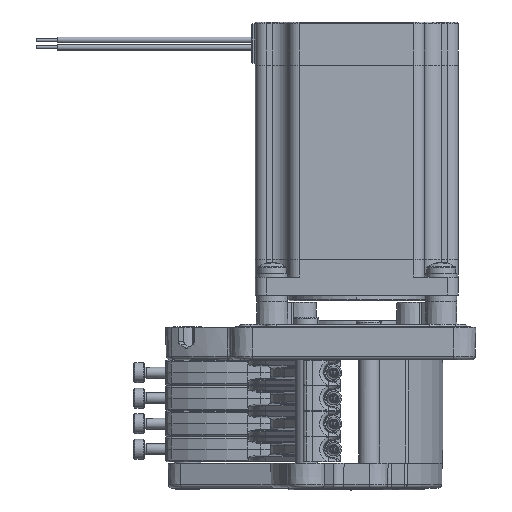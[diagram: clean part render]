
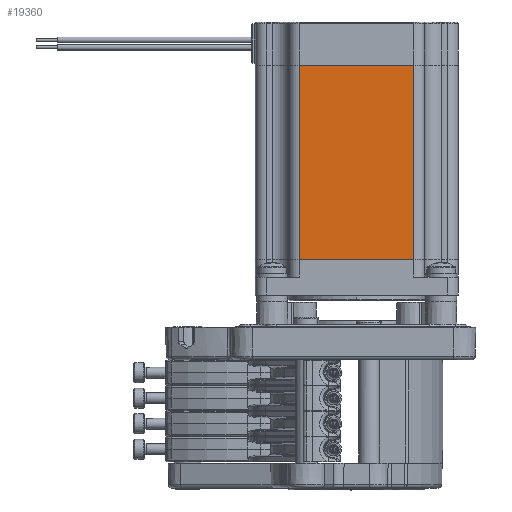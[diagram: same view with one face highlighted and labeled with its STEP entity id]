
A CAD part, left-side view. The second image highlights one B-rep face of the part: STEP entity #19360.
In plain terms, the highlighted planar face has unit normal (-1, 0, 0).
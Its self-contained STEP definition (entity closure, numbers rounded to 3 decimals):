
#132 = ORIENTED_EDGE ( 'NONE', *, *, #95512, .T. ) ;
#1692 = ORIENTED_EDGE ( 'NONE', *, *, #25412, .T. ) ;
#7920 = DIRECTION ( 'NONE',  ( 0., 0., -1. ) ) ;
#9011 = CARTESIAN_POINT ( 'NONE',  ( -29.95, 14.924, 5.605 ) ) ;
#9489 = EDGE_CURVE ( 'NONE', #103134, #72106, #31167, .T. ) ;
#10223 = EDGE_LOOP ( 'NONE', ( #1692, #44373, #97757, #29221, #43962, #132, #51715, #67742 ) ) ;
#11093 = EDGE_CURVE ( 'NONE', #83725, #49133, #40279, .T. ) ;
#11626 = CARTESIAN_POINT ( 'NONE',  ( -29.95, 14.9, 82. ) ) ;
#12765 = VERTEX_POINT ( 'NONE', #56410 ) ;
#14223 = VERTEX_POINT ( 'NONE', #93939 ) ;
#14740 = VERTEX_POINT ( 'NONE', #106316 ) ;
#19360 = ADVANCED_FACE ( 'NONE', ( #22692 ), #98100, .F. ) ;
#19492 = CARTESIAN_POINT ( 'NONE',  ( -29.95, 4.3, 28. ) ) ;
#19821 = CARTESIAN_POINT ( 'NONE',  ( -29.95, 14.908, 82. ) ) ;
#20319 = CARTESIAN_POINT ( 'NONE',  ( -29.95, -16.916, 28. ) ) ;
#21693 = B_SPLINE_CURVE_WITH_KNOTS ( 'NONE', 3,
 ( #51200, #101446, #59934, #93256 ),
 .UNSPECIFIED., .F., .F.,
 ( 4, 4 ),
 ( 0., 1. ),
 .UNSPECIFIED. ) ;
#22257 = CARTESIAN_POINT ( 'NONE',  ( -29.95, -16.924, 82. ) ) ;
#22692 = FACE_OUTER_BOUND ( 'NONE', #10223, .T. ) ;
#23243 = CARTESIAN_POINT ( 'NONE',  ( -29.95, -20.7, 82. ) ) ;
#23604 = EDGE_CURVE ( 'NONE', #72106, #14740, #21693, .T. ) ;
#25412 = EDGE_CURVE ( 'NONE', #66002, #83725, #79945, .T. ) ;
#26425 = CARTESIAN_POINT ( 'NONE',  ( -29.95, 14.924, 82. ) ) ;
#26625 = CARTESIAN_POINT ( 'NONE',  ( -29.95, 14.9, 28. ) ) ;
#28286 = AXIS2_PLACEMENT_3D ( 'NONE', #23243, #56571, #92049 ) ;
#29221 = ORIENTED_EDGE ( 'NONE', *, *, #23604, .F. ) ;
#30983 = DIRECTION ( 'NONE',  ( 0., 0., 1. ) ) ;
#31167 = B_SPLINE_CURVE_WITH_KNOTS ( 'NONE', 3,
 ( #26425, #102313, #19821, #11626 ),
 .UNSPECIFIED., .F., .F.,
 ( 4, 4 ),
 ( 0., 1. ),
 .UNSPECIFIED. ) ;
#35363 = CARTESIAN_POINT ( 'NONE',  ( -29.95, -16.9, 28. ) ) ;
#37680 = CARTESIAN_POINT ( 'NONE',  ( -29.95, 14.9, 82. ) ) ;
#40080 = B_SPLINE_CURVE_WITH_KNOTS ( 'NONE', 3,
 ( #26625, #19492, #44099, #35363 ),
 .UNSPECIFIED., .F., .F.,
 ( 4, 4 ),
 ( 0., 1. ),
 .UNSPECIFIED. ) ;
#40279 = LINE ( 'NONE', #106906, #91296 ) ;
#43402 = LINE ( 'NONE', #9011, #105461 ) ;
#43654 = EDGE_CURVE ( 'NONE', #14740, #49133, #106084, .T. ) ;
#43962 = ORIENTED_EDGE ( 'NONE', *, *, #9489, .F. ) ;
#44099 = CARTESIAN_POINT ( 'NONE',  ( -29.95, -6.3, 28. ) ) ;
#44373 = ORIENTED_EDGE ( 'NONE', *, *, #11093, .T. ) ;
#48253 = EDGE_CURVE ( 'NONE', #14223, #66002, #40080, .T. ) ;
#49133 = VERTEX_POINT ( 'NONE', #53372 ) ;
#51200 = CARTESIAN_POINT ( 'NONE',  ( -29.95, 14.9, 82. ) ) ;
#51715 = ORIENTED_EDGE ( 'NONE', *, *, #58319, .T. ) ;
#53372 = CARTESIAN_POINT ( 'NONE',  ( -29.95, -16.924, 82. ) ) ;
#56345 = CARTESIAN_POINT ( 'NONE',  ( -29.95, -16.9, 28. ) ) ;
#56410 = CARTESIAN_POINT ( 'NONE',  ( -29.95, 14.924, 28. ) ) ;
#56571 = DIRECTION ( 'NONE',  ( 1., 0., 0. ) ) ;
#58319 = EDGE_CURVE ( 'NONE', #12765, #14223, #97821, .T. ) ;
#59934 = CARTESIAN_POINT ( 'NONE',  ( -29.95, -6.3, 82. ) ) ;
#66002 = VERTEX_POINT ( 'NONE', #56345 ) ;
#67742 = ORIENTED_EDGE ( 'NONE', *, *, #48253, .T. ) ;
#72106 = VERTEX_POINT ( 'NONE', #37680 ) ;
#72783 = CARTESIAN_POINT ( 'NONE',  ( -29.95, 14.908, 28. ) ) ;
#73323 = CARTESIAN_POINT ( 'NONE',  ( -29.95, 14.916, 28. ) ) ;
#73661 = CARTESIAN_POINT ( 'NONE',  ( -29.95, -16.908, 82. ) ) ;
#79945 = B_SPLINE_CURVE_WITH_KNOTS ( 'NONE', 3,
 ( #88055, #104970, #20319, #105499 ),
 .UNSPECIFIED., .F., .F.,
 ( 4, 4 ),
 ( 0., 1. ),
 .UNSPECIFIED. ) ;
#83725 = VERTEX_POINT ( 'NONE', #94160 ) ;
#88055 = CARTESIAN_POINT ( 'NONE',  ( -29.95, -16.9, 28. ) ) ;
#91296 = VECTOR ( 'NONE', #30983, 1000. ) ;
#92049 = DIRECTION ( 'NONE',  ( 0., 0., 1. ) ) ;
#93256 = CARTESIAN_POINT ( 'NONE',  ( -29.95, -16.9, 82. ) ) ;
#93939 = CARTESIAN_POINT ( 'NONE',  ( -29.95, 14.9, 28. ) ) ;
#94160 = CARTESIAN_POINT ( 'NONE',  ( -29.95, -16.924, 28. ) ) ;
#95512 = EDGE_CURVE ( 'NONE', #103134, #12765, #43402, .T. ) ;
#97110 = CARTESIAN_POINT ( 'NONE',  ( -29.95, -16.916, 82. ) ) ;
#97328 = CARTESIAN_POINT ( 'NONE',  ( -29.95, 14.924, 28. ) ) ;
#97757 = ORIENTED_EDGE ( 'NONE', *, *, #43654, .F. ) ;
#97821 = B_SPLINE_CURVE_WITH_KNOTS ( 'NONE', 3,
 ( #97328, #73323, #72783, #97886 ),
 .UNSPECIFIED., .F., .F.,
 ( 4, 4 ),
 ( 0., 1. ),
 .UNSPECIFIED. ) ;
#97886 = CARTESIAN_POINT ( 'NONE',  ( -29.95, 14.9, 28. ) ) ;
#98100 = PLANE ( 'NONE',  #28286 ) ;
#98741 = CARTESIAN_POINT ( 'NONE',  ( -29.95, -16.9, 82. ) ) ;
#101446 = CARTESIAN_POINT ( 'NONE',  ( -29.95, 4.3, 82. ) ) ;
#102313 = CARTESIAN_POINT ( 'NONE',  ( -29.95, 14.916, 82. ) ) ;
#103134 = VERTEX_POINT ( 'NONE', #107736 ) ;
#104970 = CARTESIAN_POINT ( 'NONE',  ( -29.95, -16.908, 28. ) ) ;
#105461 = VECTOR ( 'NONE', #7920, 1000. ) ;
#105499 = CARTESIAN_POINT ( 'NONE',  ( -29.95, -16.924, 28. ) ) ;
#106084 = B_SPLINE_CURVE_WITH_KNOTS ( 'NONE', 3,
 ( #98741, #73661, #97110, #22257 ),
 .UNSPECIFIED., .F., .F.,
 ( 4, 4 ),
 ( 0., 1. ),
 .UNSPECIFIED. ) ;
#106316 = CARTESIAN_POINT ( 'NONE',  ( -29.95, -16.9, 82. ) ) ;
#106906 = CARTESIAN_POINT ( 'NONE',  ( -29.95, -16.924, 5.605 ) ) ;
#107736 = CARTESIAN_POINT ( 'NONE',  ( -29.95, 14.924, 82. ) ) ;
